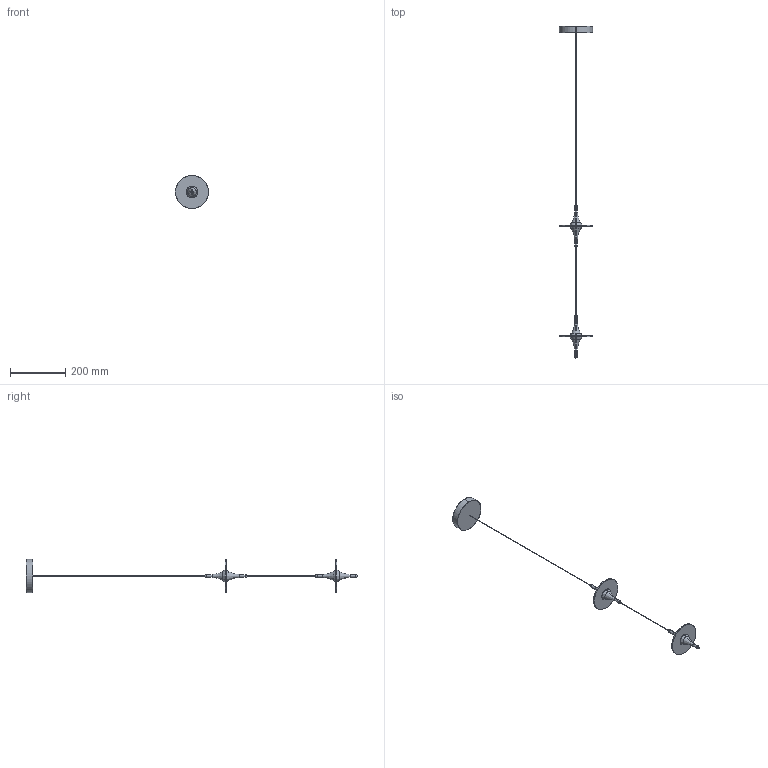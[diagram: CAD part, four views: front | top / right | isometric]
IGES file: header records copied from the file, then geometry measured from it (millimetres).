
Start section: SolidWorks IGES file using analytic representation for surfaces
Global section: file name: F:\燠隴矨\3D\2025-12\Starfall Staircase Chandelier.IGS,15; native system: HSolidWorks 2022; preprocessor: SolidWorks 2022; author: MyPC; date: 251221.155132; units: millimetre
Bounding box: 120 x 1201.01 x 120 mm (x, y, z)
Surface area: 118972.9 mm2 (no closed solid volume)
Topology: 0 solids, 0 shells, 63 faces, 1048 edges, 1042 vertices
Faces by surface type: bspline 37, revolution 26
